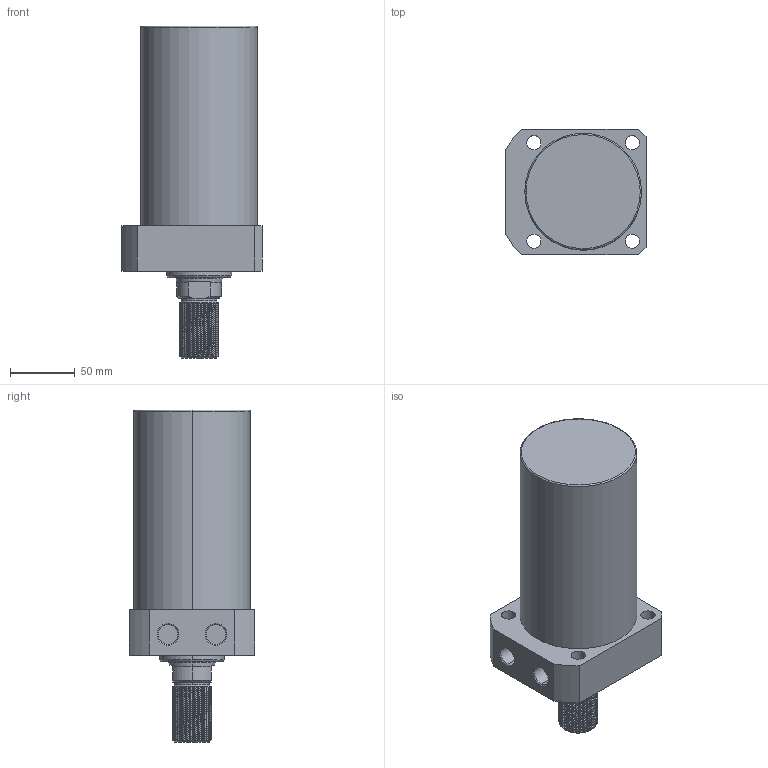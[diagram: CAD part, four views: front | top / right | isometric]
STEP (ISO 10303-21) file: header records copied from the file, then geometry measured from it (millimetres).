
FILE_DESCRIPTION (( 'STEP AP214' ), '1' );
FILE_NAME ('CLLR-090CT-110.STEP', '2020-01-10T02:38:25', ( 'Windows' ), ( 'Microsoft' ), 'SwSTEP 2.0', 'SolidWorks 2015', '' );
FILE_SCHEMA (( 'AUTOMOTIVE_DESIGN' ));
Length unit declared in the file: millimetre
Products named in the file (1): CLLR-090CT-110
Bounding box: 108 x 97 x 256 mm (x, y, z)
Volume: 1373810.4 mm3; surface area: 92186 mm2
Topology: 1 solids, 1 shells, 125 faces, 330 edges, 215 vertices
Faces by surface type: cylinder 85, plane 20, cone 16, torus 2, bspline 2
Entity records: 6993 total; most frequent: CARTESIAN_POINT 4102, ORIENTED_EDGE 660, DIRECTION 530, EDGE_CURVE 330, VERTEX_POINT 215, AXIS2_PLACEMENT_3D 204, EDGE_LOOP 141, FACE_OUTER_BOUND 125
